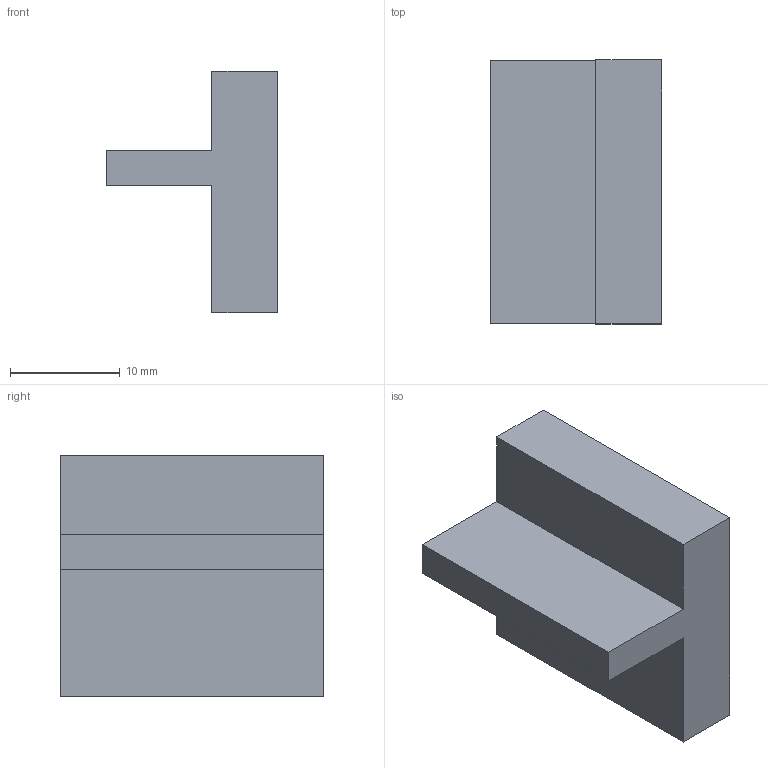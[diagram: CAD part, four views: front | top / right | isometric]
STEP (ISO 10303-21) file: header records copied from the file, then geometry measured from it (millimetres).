
FILE_DESCRIPTION(('Open CASCADE Model'),'2;1');
FILE_NAME('Open CASCADE Shape Model','2026-09-13T15:34:28',('Author'),( 'Open CASCADE'),'Open CASCADE STEP processor 7.9','build123d', 'Unknown');
FILE_SCHEMA(('AUTOMOTIVE_DESIGN { 1 0 10303 214 1 1 1 1 }'));
Length unit declared in the file: millimetre
Products named in the file (3): =>[0:1:1:2]; COMPOUND; SOLID
Assembly tree (2 placements, depth 3):
  =>[0:1:1:2]
    COMPOUND
      SOLID
Bounding box: 15.6 x 24 x 22 mm (x, y, z)
Volume: 3905.3 mm3; surface area: 2130.2 mm2
Topology: 1 solids, 1 shells, 10 faces, 24 edges, 16 vertices
Faces by surface type: plane 10
Entity records: 614 total; most frequent: CARTESIAN_POINT 133, DIRECTION 66, ORIENTED_EDGE 48, PCURVE 48, DEFINITIONAL_REPRESENTATION 48, LINE 40, VECTOR 40, B_SPLINE_CURVE_WITH_KNOTS 32
